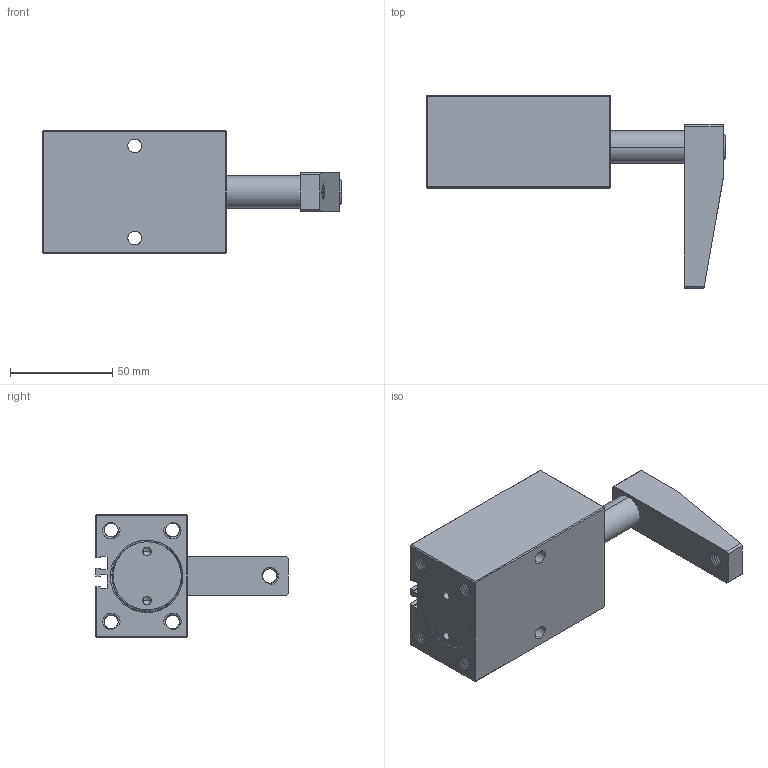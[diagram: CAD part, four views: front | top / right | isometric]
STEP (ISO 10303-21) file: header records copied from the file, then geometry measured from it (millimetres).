
FILE_DESCRIPTION((''),'2;1');
FILE_NAME('PSB-32_ASM','2010-02-03T',('Administrator'),(''),'PRO/ENGINEER BY PARAMETRIC TECHNOLOGY CORPORATION, 2007170','PRO/ENGINEER BY PARAMETRIC TECHNOLOGY CORPORATION, 2007170','');
FILE_SCHEMA(('CONFIG_CONTROL_DESIGN'));
Length unit declared in the file: millimetre
Products named in the file (6): PSB-32BT; PSB-32HSG; PSB-32HG; PSB-32YB; M8X20; PSB-32_ASM
Assembly tree (5 placements, depth 2):
  PSB-32_ASM
    PSB-32BT
    PSB-32HSG
    PSB-32HG
    PSB-32YB
    M8X20
Bounding box: 146 x 94 x 60 mm (x, y, z)
Volume: 222064.6 mm3; surface area: 69663.8 mm2
Topology: 5 solids, 5 shells, 569 faces, 1559 edges, 1007 vertices
Faces by surface type: cylinder 356, bspline 94, plane 86, torus 18, cone 15
Entity records: 44813 total; most frequent: CARTESIAN_POINT 31951, ORIENTED_EDGE 3106, DIRECTION 1900, EDGE_CURVE 1553, VERTEX_POINT 1007, B_SPLINE_CURVE_WITH_KNOTS 783, AXIS2_PLACEMENT_3D 644, VECTOR 612
